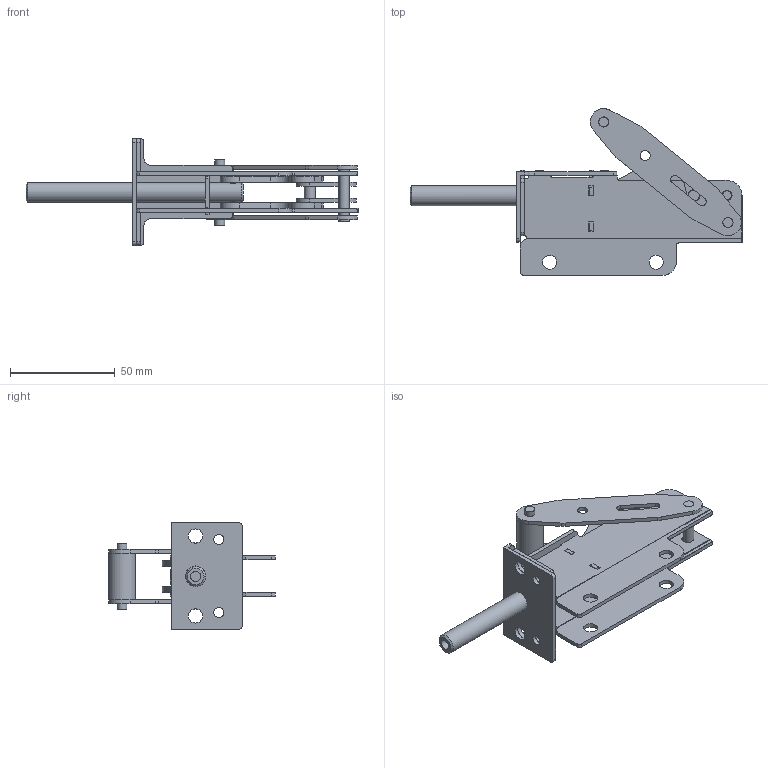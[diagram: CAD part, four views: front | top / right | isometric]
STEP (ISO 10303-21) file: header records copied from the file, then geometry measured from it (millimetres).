
FILE_DESCRIPTION((' '),'2;1');
FILE_NAME('C:\Users\Nick\Desktop\P&P Series\P&PS 800 - ET\3D\P&PS-800-ET.stp','2015-07-24T12:54:39',(' '),(' '),' ','ACIS',' ');
FILE_SCHEMA(('CONFIG_CONTROL_DESIGN'));
Length unit declared in the file: inch
Products named in the file (17): C:\Users\Nick\Desktop\P&P Series\P&PS 800 - ET\3D\P&PS-800-ET.stp; Body1; Body2; Body3; Body4; Body5; Body6; Body7; Body8; Body9; Body10; Body11; Body12; Body13; Body14; Body15; Body16
Assembly tree (16 placements, depth 2):
  C:\Users\Nick\Desktop\P&P Series\P&PS 800 - ET\3D\P&PS-800-ET.stp
    Body1
    Body2
    Body3
    Body4
    Body5
    Body6
    Body7
    Body8
    Body9
    Body10
    Body11
    Body12
    Body13
    Body14
    Body15
    Body16
Bounding box: 158.23 x 79.41 x 50.8 mm (x, y, z)
Volume: 44368.5 mm3; surface area: 45866 mm2
Topology: 18 solids, 18 shells, 331 faces, 878 edges, 585 vertices
Faces by surface type: plane 148, bspline 105, cylinder 76, cone 2
Full cylindrical faces by diameter (mm): 4.324 x1, 4.699 x2, 4.737 x2, 4.763 x1, 4.775 x4, 4.801 x3, 4.86 x1, 4.902 x1, 5.21 x1, 5.563 x6, 6.756 x5, 9.525 x2, 9.576 x1, 12.7 x1
Entity records: 13240 total; most frequent: CARTESIAN_POINT 2713, ORIENTED_EDGE 1656, DIRECTION 1580, EDGE_CURVE 828, VECTOR 590, LINE 590, VERTEX_POINT 580, AXIS2_PLACEMENT_3D 495
